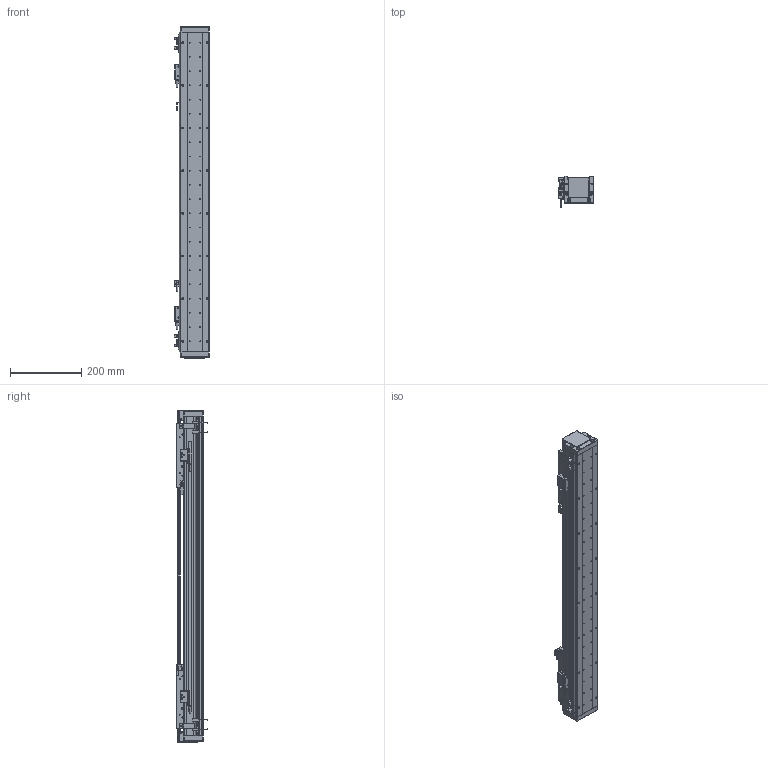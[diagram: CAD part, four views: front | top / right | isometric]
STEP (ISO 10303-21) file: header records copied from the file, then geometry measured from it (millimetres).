
FILE_DESCRIPTION (( 'STEP AP203' ), '1' );
FILE_NAME ('DA-A82-2-B2-T480-C010-0.2 眻盄萇儂.STEP', '2025-08-13T02:28:57', ( '' ), ( '' ), 'SwSTEP 2.0', 'SolidWorks 2019', '' );
FILE_SCHEMA (( 'CONFIG_CONTROL_DESIGN' ));
Length unit declared in the file: millimetre
Products named in the file (27): 复件 DA82-T-002-00 盖板^DA-A82-B2-T-C010-0.2-N 直线电机; 葩璃 PM-T45^DA-A82-B2-T-C010-0.2-N 眻盄萇儂; AU82-HT-M-00 賑雄怢啣; IU-AU82-L-00 菁釱(L900); 葩璃 DMT-010 1米m 0.2M^DA-A82-B2-T-C010-0.2-N 眻盄萇儂; AU82-M-00 珨极趙賑雄怢啣; DA-A60-GYP-DMT-00 光电感应片^DA-A82-B2-T-C010-0.2-N 直线电机(默认); 复件 DA95-B2-GT-00 滑块钢轨^AU82-M-00 一体化滑动台板; 复件 DA82-GDZ-ZJ-00 中间光电固定座^DA-A82-B2-T-C010-0.2-N 直线电机; AU82-M-00 珨极趙賑雄怢啣-1; 葩璃 DA82-B2-DP-00 結え^AU82-M 幗紩賑怢; 复件 BKM02-W040-C1-TP-DA-3.0 直线电机动子^DA-A82-B2-T-C010-0.2-N 直线电机; 复件 DA60-DMT-DTJ-00 读数头支架^DA-A82-B2-T-C010-0.2-N 直线电机; 复件 XD-U-02  磁栅尺^DA-A82-B2-T-C010-0.2-N 直线电机; 复件 纯铜油杯 6x6mm^AU82-M 滚珠滑台; DA-A82-2-B2-T480-C010-0.2 眻盄萇儂; 复件 DA82-DG-H-N-00 端盖^DA-A82-B2-T-C010-0.2-N 直线电机(默认_按加工_); 复件 DA82-GYP-ZJ-00 中间光电感应片^DA-A82-B2-T-C010-0.2-N 直线电机; 复件 DA95-GT-T-00 底座钢轨^IU-AU82-L 底座导轨; 复件 DKW-GJ-XJ-00 防撞橡胶^DA-A82-B2-T-C010-0.2-N 直线电机; 复件 六角薄螺母 M3^DA-A82-B2-T-C010-0.2-N 直线电机; AU82-M 幗紩賑怢; 复件 复件 DA82-XJ-00 缓冲橡胶^DA-A82-B2-T-C010-0.2-N 直线电机; AU82-M 幗紩賑怢-1; IU-AU82-L 菁釱絳寢; 葩璃 PM-L25^DA-A82-B2-T-C010-0.2-N 眻盄萇儂; 葩璃 BKM01-W040-TRL^DA-A82-B2-T-C010-0.2-N 眻盄萇儂
Assembly tree (57 placements, depth 4):
  DA-A82-2-B2-T480-C010-0.2 眻盄萇儂
    IU-AU82-L 菁釱絳寢
      IU-AU82-L-00 菁釱(L900)
      复件 DA95-GT-T-00 底座钢轨^IU-AU82-L 底座导轨  x2
    AU82-M 幗紩賑怢
      AU82-M-00 珨极趙賑雄怢啣
        AU82-HT-M-00 賑雄怢啣
        复件 DA95-B2-GT-00 滑块钢轨^AU82-M-00 一体化滑动台板  x4
      葩璃 DA82-B2-DP-00 結え^AU82-M 幗紩賑怢  x2
      复件 纯铜油杯 6x6mm^AU82-M 滚珠滑台  x2
    AU82-M 幗紩賑怢-1
      AU82-M-00 珨极趙賑雄怢啣-1
        AU82-HT-M-00 賑雄怢啣
        复件 DA95-B2-GT-00 滑块钢轨^AU82-M-00 一体化滑动台板  x4
      葩璃 DA82-B2-DP-00 結え^AU82-M 幗紩賑怢  x2
      复件 纯铜油杯 6x6mm^AU82-M 滚珠滑台  x2
    复件 BKM02-W040-C1-TP-DA-3.0 直线电机动子^DA-A82-B2-T-C010-0.2-N 直线电机  x2
    复件 DA60-DMT-DTJ-00 读数头支架^DA-A82-B2-T-C010-0.2-N 直线电机  x2
    葩璃 DMT-010 1米m 0.2M^DA-A82-B2-T-C010-0.2-N 眻盄萇儂  x2
    DA-A60-GYP-DMT-00 光电感应片^DA-A82-B2-T-C010-0.2-N 直线电机(默认)  x2
    复件 DA82-GDZ-ZJ-00 中间光电固定座^DA-A82-B2-T-C010-0.2-N 直线电机
    葩璃 PM-L25^DA-A82-B2-T-C010-0.2-N 眻盄萇儂
    复件 DA82-GYP-ZJ-00 中间光电感应片^DA-A82-B2-T-C010-0.2-N 直线电机
    复件 DKW-GJ-XJ-00 防撞橡胶^DA-A82-B2-T-C010-0.2-N 直线电机
    复件 复件 DA82-XJ-00 缓冲橡胶^DA-A82-B2-T-C010-0.2-N 直线电机  x2
    复件 DA82-DG-H-N-00 端盖^DA-A82-B2-T-C010-0.2-N 直线电机(默认_按加工_)  x2
    复件 DA82-T-002-00 盖板^DA-A82-B2-T-C010-0.2-N 直线电机
    葩璃 BKM01-W040-TRL^DA-A82-B2-T-C010-0.2-N 眻盄萇儂
    葩璃 PM-T45^DA-A82-B2-T-C010-0.2-N 眻盄萇儂  x4
    复件 XD-U-02  磁栅尺^DA-A82-B2-T-C010-0.2-N 直线电机
    复件 六角薄螺母 M3^DA-A82-B2-T-C010-0.2-N 直线电机  x8
Bounding box: 98.95 x 87.2 x 934 mm (x, y, z)
Volume: 3505449.3 mm3; surface area: 985323.5 mm2
Topology: 66 solids, 114 shells, 3073 faces, 7843 edges, 4824 vertices
Faces by surface type: cylinder 1325, plane 1238, cone 436, torus 46, bspline 20, sphere 8
Entity records: 59255 total; most frequent: CARTESIAN_POINT 12716, DIRECTION 9220, ORIENTED_EDGE 8638, EDGE_CURVE 4319, AXIS2_PLACEMENT_3D 3455, VERTEX_POINT 2795, LINE 2310, VECTOR 2310
